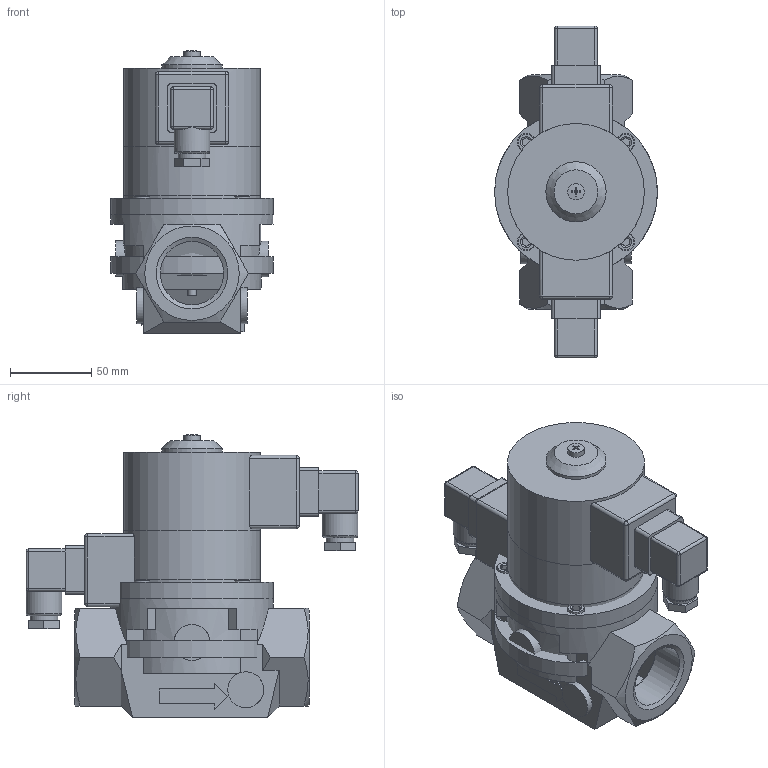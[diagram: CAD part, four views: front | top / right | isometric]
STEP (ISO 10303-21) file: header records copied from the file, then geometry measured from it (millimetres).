
FILE_DESCRIPTION( ( 'Unknown' ), '1' );
FILE_NAME( 'D:/Wyroby/Widoki gabarytowe/Zawory ZEA/ZEA_32/ZEA_32.stp', 'Unknown', ( 'Unknown' ), ( 'Unknown' ), 'XStep 1.0', 'Unknown', ' ' );
FILE_SCHEMA( ( 'CONFIG_CONTROL_DESIGN' ) );
Length unit declared in the file: millimetre
Products named in the file (35): Wa_014_01_03; Wa_014_01_05; Wa_014_01_02; Wa_014_01_06; Assem1; Wa_014_01_04; Wb_019_01_00; Wa_014_01_06bez_pan.; Wa_014_01_06_001got.; Wa_014_01_02_002bez_gniazda; Wa_014_01_02_001  gotowe; Wa_014_01_05_002got.; Wa_014_01_05_001got.; Wa_014_01_03bez_ko³ka; Ko³ek4x25; Wa_014_01_04_001zaci從i黎y; Wa_100_01_01_003zaci從i黎a; Wa_100_01_01_002; Wa_014_01_00_003got.; Wa_014_01_00_001; Œ-008ImbusM6x16; T-026; K-006got.; Wa_014_01_00_005; Wa_014_01_00_007; Wa_014_01_00_006; Wa_014_01_00_004; W-036M5x14krzy¿.; Wa_014_01_00_002彡i從i黎a27; Oring70x3彡i從.; Wa_100_01_03; Cewka_32
Bounding box: 100 x 204 x 173.79 mm (x, y, z)
Volume: 2869204.1 mm3; surface area: 755810.9 mm2
Topology: 98 solids, 98 shells, 1722 faces, 3850 edges, 2485 vertices
Faces by surface type: plane 877, cylinder 537, cone 240, sphere 28, torus 25, bspline 15
Full cylindrical faces by diameter (mm): 2 x5, 2.1 x8, 2.5 x10, 4 x8, 4.134 x5, 4.2 x11, 4.917 x16, 5 x3, 5.5 x3, 6 x12, 6.5 x5, 6.6 x12, 8 x10, 10 x18, 11 x12, 13 x4, 16 x8, 17 x2, 20 x7, 22 x22, 24 x4, 26.9 x4, 27 x4, 27.2 x8, 27.7 x12, 28 x5, 28.5 x4, 28.6 x5, 28.917 x8, 29 x7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
Entity records: 15263 total; most frequent: CARTESIAN_POINT 3577, DIRECTION 2235, ORIENTED_EDGE 1684, AXIS2_PLACEMENT_3D 929, EDGE_CURVE 842, EDGE_LOOP 766, VERTEX_POINT 643, FACE_OUTER_BOUND 609
